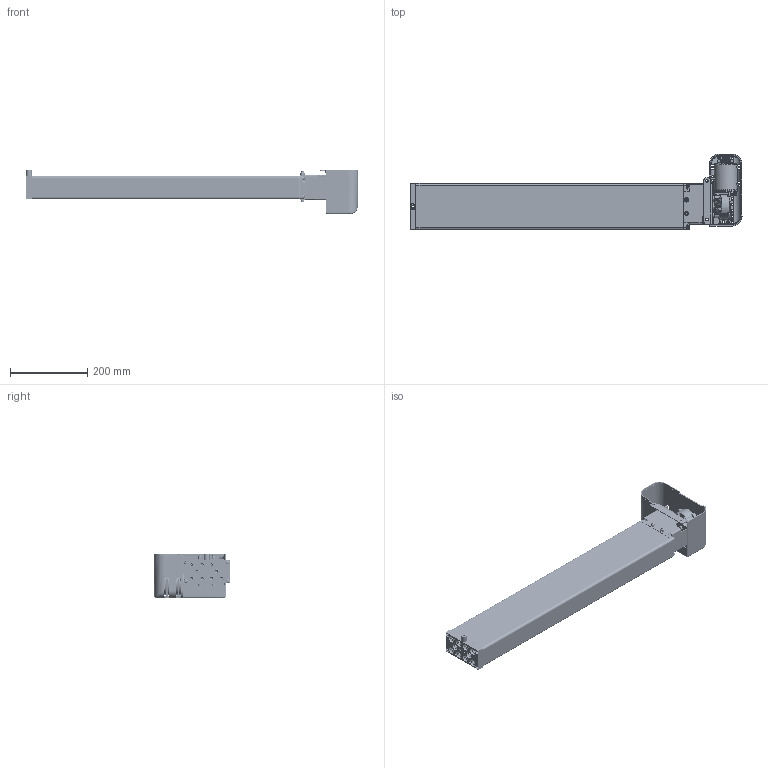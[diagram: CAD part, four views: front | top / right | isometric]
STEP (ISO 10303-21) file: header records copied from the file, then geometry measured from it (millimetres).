
FILE_DESCRIPTION(/* description */ ('Unknown'),/* implementation_level */ '2;1');
FILE_NAME(/* name */ '3X2.20275 Pumpe PB 9850 W mit Antrieb',/* time_stamp */ '2016-11-25T15:19:33+01:00',/* author */ ('Unknown'),/* organization */ ('Unknown'),/* preprocessor_version */ 'ST-DEVELOPER v16.7',/* originating_system */ 'DEX',/* authorisation */ $);
FILE_SCHEMA (('AUTOMOTIVE_DESIGN {1 0 10303 214 3 1 1}'));
Products named in the file (33): 102.00275; 115.10035; 125.00061; 115.00008; 142.00021; 125.00021; 142.00013; 125.00145; 115.00140; 126.00006; 122.00040; 119.00045; 126.00036; 127.00201; 127.00200; 127.00023; 124.00090; Getriebe; Ring; Schraube; Stator; Abdeckplatte; Antriebswelle; 128.00051; 123.00031; 142.00018; 142.00019; 142.00025; 142.00131; 123.00029; 142.00057; 142.00083; 142.00017
Assembly tree (56 placements, depth 3):
  102.00275
    115.10035  x9
      125.00061
      115.00008
      142.00021
      125.00021
    142.00013  x8
    125.00145
    115.00140
      126.00006
      122.00040
    119.00045
    126.00036
    127.00201
      127.00200
      127.00023
    124.00090
      Getriebe
      Ring
      Schraube
      Stator
      Abdeckplatte
      Antriebswelle
    128.00051
    123.00031
    142.00018  x2
    142.00019  x2
    142.00025  x2
    142.00131  x3
    123.00029
    142.00057
    142.00083  x4
    142.00017  x2
Bounding box: 858.45 x 196.04 x 115.45 mm (x, y, z)
Volume: 1385946.4 mm3; surface area: 909370.8 mm2
Topology: 67 solids, 69 shells, 4475 faces, 11175 edges, 6853 vertices
Faces by surface type: plane 1419, cylinder 1203, bspline 1040, cone 508, torus 206, sphere 99
Full cylindrical faces by diameter (mm): 2.5 x4, 3.2 x4, 3.5 x9, 3.9 x5, 4.1 x9, 4.134 x4, 4.2 x11, 4.4 x5, 4.5 x1, 4.917 x4, 5 x12, 5.5 x5, 5.8 x4, 6 x8, 6.4 x2, 6.8 x6, 6.917 x18, 7 x1, 8 x20, 8.5 x10, 9 x2, 9.5 x1, 9.8 x8, 10 x10, 10.3 x1, 10.32 x1, 10.4 x1, 10.5 x4, 11 x5, 12.5 x9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
Entity records: 165450 total; most frequent: CARTESIAN_POINT 80684, ORIENTED_EDGE 16058, DIRECTION 12095, EDGE_CURVE 8029, VERTEX_POINT 5273, AXIS2_PLACEMENT_3D 4682, FACE_BOUND 4022, EDGE_LOOP 4017
